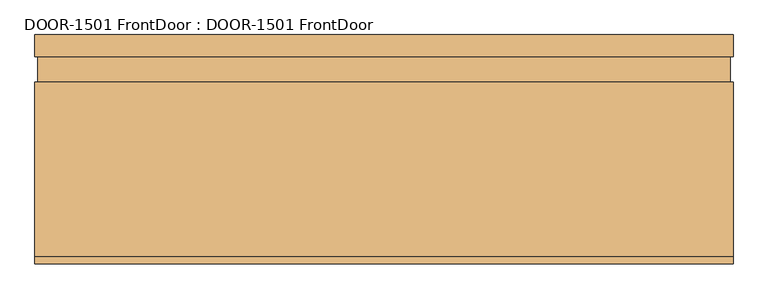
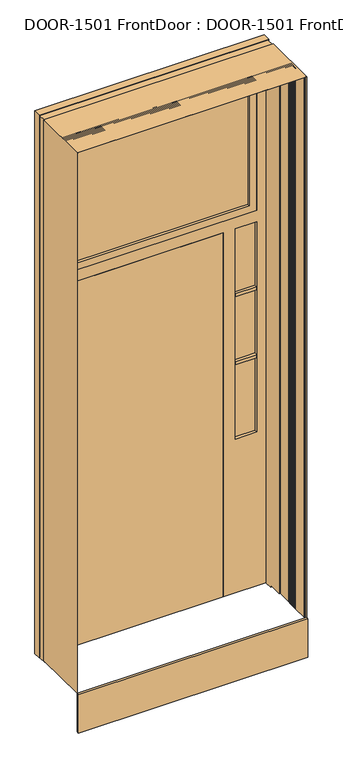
"""IFC4 building model written with IfcOpenShell, lengths in millimetres: door geometry, DOOR-1501 FrontDoor : DOOR-1501 FrontDoor."""

from ifc_helpers import new_model, si_unit, frame, origin, origin_with_axes, place, context, project, spatial, polyline, outline, extrude, faceted_brep, source, transform, mapped, element, save


def door_1501_frontdoor_door_1501_frontdoor_4eb3a074(model_context):
    return source(origin(), model_context, "Body", "SolidModel", [
        faceted_brep([(604.8122157, 152.4, 0.0), (595.3050309, 152.4, 0.0), (595.3050309, 196.85, 0.0), (604.8122157, 196.85, 0.0), (604.8122157, 196.85, 3043.2122157), (604.8122157, 152.4, 3043.2122157), (604.8122157, 152.4, 11.7243329), (595.3050309, 196.85, 3033.7050309), (-595.3050309, 196.85, 3033.7050309), (-595.3050309, 196.85, 0.0), (-604.8122157, 196.85, 0.0), (-604.8122157, 196.85, 3043.2122157), (595.3050309, 152.4, 11.7243329), (595.3050309, 74.3789963, 11.7243329), (595.3050309, 74.3789963, 3033.7050309), (-604.8122157, 152.4, 11.7243329), (-604.8122157, 152.4, 0.0), (-595.3050309, 152.4, 0.0), (-595.3050309, 152.4, 11.7243329), (609.6, -152.4, 3048.0), (609.6, -152.4, 11.7243329), (609.6, 152.4, 11.7243329), (609.6, 152.4, 3048.0), (604.8122157, -147.6122157, 3043.2122157), (604.8122157, -147.6122157, 11.7243329), (604.8122157, -144.7429306, 11.7243329), (603.5458918, -144.7429306, 11.7243329), (603.5458918, -141.1471506, 11.7243329), (600.7620621, -141.1471506, 11.7243329), (600.7620621, -69.3051017, 11.7243329), (605.2521902, -64.8149736, 11.7243329), (600.7620621, -60.3248455, 11.7243329), (605.2521902, -55.8347175, 11.7243329), (600.7620621, -51.3445894, 11.7243329), (605.2521902, -46.8544614, 11.7243329), (600.7620621, -42.3643333, 11.7243329), (605.2521902, -37.8742052, 11.7243329), (600.7620621, -33.3840772, 11.7243329), (605.2521902, -28.8939491, 11.7243329), (600.7620621, -24.403821, 11.7243329), (605.2521902, -19.913693, 11.7243329), (600.7620621, -15.4235649, 11.7243329), (605.2521902, -10.9334369, 11.7243329), (600.7620621, -6.4433088, 11.7243329), (605.2521902, -1.9531807, 11.7243329), (600.7620621, 2.5369473, 11.7243329), (600.7620621, 74.3789963, 11.7243329), (-595.3050309, 74.3789963, 11.7243329), (-600.7620621, 74.3789963, 11.7243329), (-600.7620621, 2.5369473, 11.7243329), (-605.2521902, -1.9531807, 11.7243329), (-600.7620621, -6.4433088, 11.7243329), (-605.2521902, -10.9334369, 11.7243329), (-600.7620621, -15.4235649, 11.7243329), (-605.2521902, -19.913693, 11.7243329), (-600.7620621, -24.403821, 11.7243329), (-605.2521902, -28.8939491, 11.7243329), (-600.7620621, -33.3840772, 11.7243329), (-605.2521902, -37.8742052, 11.7243329), (-600.7620621, -42.3643333, 11.7243329), (-605.2521902, -46.8544614, 11.7243329), (-600.7620621, -51.3445894, 11.7243329), (-605.2521902, -55.8347175, 11.7243329), (-600.7620621, -60.3248455, 11.7243329), (-605.2521902, -64.8149736, 11.7243329), (-600.7620621, -69.3051017, 11.7243329), (-600.7620621, -141.1471506, 11.7243329), (-603.5458918, -141.1471506, 11.7243329), (-603.5458918, -144.7429306, 11.7243329), (-604.8122157, -144.7429306, 11.7243329), (-604.8122157, -147.6122157, 11.7243329), (-609.6, -152.4, 11.7243329), (-609.6, 152.4, 11.7243329), (604.8122157, -144.7429306, 3043.2122157), (-604.8122157, 152.4, 3043.2122157), (-609.6, 152.4, 3048.0), (-609.6, -152.4, 3048.0), (-595.3050309, 74.3789963, 3033.7050309), (600.7620621, 74.3789963, 3039.1620621), (-600.7620621, 74.3789963, 3039.1620621), (-600.7620621, 2.5369473, 3039.1620621), (600.7620621, 2.5369473, 3039.1620621), (605.2521902, -1.9531807, 3043.6521902), (600.7620621, -6.4433088, 3039.1620621), (605.2521902, -10.9334369, 3043.6521902), (600.7620621, -15.4235649, 3039.1620621), (605.2521902, -19.913693, 3043.6521902), (600.7620621, -24.403821, 3039.1620621), (605.2521902, -28.8939491, 3043.6521902), (600.7620621, -33.3840772, 3039.1620621), (605.2521902, -37.8742052, 3043.6521902), (600.7620621, -42.3643333, 3039.1620621), (605.2521902, -46.8544614, 3043.6521902), (600.7620621, -51.3445894, 3039.1620621), (605.2521902, -55.8347175, 3043.6521902), (600.7620621, -60.3248455, 3039.1620621), (605.2521902, -64.8149736, 3043.6521902), (600.7620621, -69.3051017, 3039.1620621), (600.7620621, -141.1471506, 3039.1620621), (603.5458918, -141.1471506, 3041.9458918), (-603.5458918, -141.1471506, 3041.9458918), (-600.7620621, -141.1471506, 3039.1620621), (-600.7620621, -69.3051017, 3039.1620621), (-603.5458918, -144.7429306, 3041.9458918), (603.5458918, -144.7429306, 3041.9458918), (-604.8122157, -144.7429306, 3043.2122157), (-604.8122157, -147.6122157, 3043.2122157), (-605.2521902, -1.9531807, 3043.6521902), (-600.7620621, -6.4433088, 3039.1620621), (-605.2521902, -10.9334369, 3043.6521902), (-600.7620621, -15.4235649, 3039.1620621), (-605.2521902, -19.913693, 3043.6521902), (-600.7620621, -24.403821, 3039.1620621), (-605.2521902, -28.8939491, 3043.6521902), (-600.7620621, -33.3840772, 3039.1620621), (-605.2521902, -37.8742052, 3043.6521902), (-600.7620621, -42.3643333, 3039.1620621), (-605.2521902, -46.8544614, 3043.6521902), (-600.7620621, -51.3445894, 3039.1620621), (-605.2521902, -55.8347175, 3043.6521902), (-600.7620621, -60.3248455, 3039.1620621), (-605.2521902, -64.8149736, 3043.6521902)], [[[0, 1, 2, 3]], [[3, 4, 5, 6, 0]], [[2, 7, 8, 9, 10, 11, 4, 3]], [[2, 1, 12, 13, 14, 7]], [[12, 1, 0, 6]], [[15, 16, 17, 18]], [[19, 20, 21, 22]], [[23, 24, 20, 19]], [[6, 21, 20, 24, 25, 26, 27, 28, 29, 30, 31, 32, 33, 34, 35, 36, 37, 38, 39, 40, 41, 42, 43, 44, 45, 46, 13, 12]], [[18, 47, 48, 49, 50, 51, 52, 53, 54, 55, 56, 57, 58, 59, 60, 61, 62, 63, 64, 65, 66, 67, 68, 69, 70, 71, 72, 15]], [[73, 25, 24, 23]], [[22, 21, 6, 5, 74, 15, 72, 75]], [[75, 72, 71, 76]], [[10, 16, 15, 74, 11]], [[9, 17, 16, 10]], [[8, 77, 47, 18, 17, 9]], [[14, 13, 46, 78, 79, 48, 47, 77]], [[80, 49, 48, 79]], [[78, 46, 45, 81]], [[81, 45, 44, 82]], [[82, 44, 43, 83]], [[83, 43, 42, 84]], [[84, 42, 41, 85]], [[85, 41, 40, 86]], [[86, 40, 39, 87]], [[87, 39, 38, 88]], [[88, 38, 37, 89]], [[89, 37, 36, 90]], [[90, 36, 35, 91]], [[91, 35, 34, 92]], [[92, 34, 33, 93]], [[93, 33, 32, 94]], [[94, 32, 31, 95]], [[95, 31, 30, 96]], [[96, 30, 29, 97]], [[97, 29, 28, 98]], [[98, 28, 27, 99, 100, 67, 66, 101]], [[101, 66, 65, 102]], [[103, 68, 67, 100]], [[99, 27, 26, 104]], [[104, 26, 25, 73, 105, 69, 68, 103]], [[106, 70, 69, 105]], [[76, 71, 70, 106]], [[107, 50, 49, 80]], [[108, 51, 50, 107]], [[109, 52, 51, 108]], [[110, 53, 52, 109]], [[111, 54, 53, 110]], [[112, 55, 54, 111]], [[113, 56, 55, 112]], [[114, 57, 56, 113]], [[115, 58, 57, 114]], [[116, 59, 58, 115]], [[117, 60, 59, 116]], [[118, 61, 60, 117]], [[119, 62, 61, 118]], [[120, 63, 62, 119]], [[121, 64, 63, 120]], [[102, 65, 64, 121]], [[19, 76, 106, 23]], [[22, 75, 76, 19]], [[5, 4, 11, 74]], [[7, 14, 77, 8]], [[78, 81, 80, 79]], [[82, 107, 80, 81]], [[83, 108, 107, 82]], [[84, 109, 108, 83]], [[85, 110, 109, 84]], [[86, 111, 110, 85]], [[87, 112, 111, 86]], [[88, 113, 112, 87]], [[89, 114, 113, 88]], [[90, 115, 114, 89]], [[91, 116, 115, 90]], [[92, 117, 116, 91]], [[93, 118, 117, 92]], [[94, 119, 118, 93]], [[95, 120, 119, 94]], [[96, 121, 120, 95]], [[97, 102, 121, 96]], [[98, 101, 102, 97]], [[99, 104, 103, 100]], [[73, 23, 106, 105]]]),
        extrude(outline(polyline([(431.8, 212.725), (431.8, 215.9), (546.1, 215.9), (546.1, 212.725), (431.8, 212.725)])), frame((0.0, 0.0, 1679.14741), z_axis=(0.0, 0.0, 1.0), x_axis=(1.0, 0.0, 0.0)), (0.0, 0.0, 1.0), 365.55259),
        extrude(outline(polyline([(431.8, 212.725), (431.8, 215.9), (546.1, 215.9), (546.1, 212.725), (431.8, 212.725)])), frame((0.0, 0.0, 1298.14741), z_axis=(0.0, 0.0, 1.0), x_axis=(1.0, 0.0, 0.0)), (0.0, 0.0, 1.0), 364.63855),
        extrude(outline(polyline([(431.8, 212.725), (431.8, 215.9), (546.1, 215.9), (546.1, 212.725), (431.8, 212.725)])), frame((0.0, 0.0, 863.6), z_axis=(0.0, 0.0, 1.0), x_axis=(1.0, 0.0, 0.0)), (0.0, 0.0, 1.0), 418.1859599),
        extrude(outline(polyline([(-508.0, 212.725), (-508.0, 215.9), (508.0, 215.9), (508.0, 212.725), (-508.0, 212.725)])), frame((0.0, 0.0, 2146.3), z_axis=(0.0, 0.0, 1.0), x_axis=(1.0, 0.0, 0.0)), (0.0, 0.0, 1.0), 800.1),
        extrude(outline(polyline([(-546.1, 196.85), (-546.1, 234.95), (368.3, 234.95), (368.3, 196.85), (-546.1, 196.85)])), origin_with_axes(), (0.0, 0.0, 1.0), 2044.7),
        extrude(outline(polyline([(2984.5, -546.1), (2108.2, -546.1), (2108.2, 546.1), (2984.5, 546.1), (2984.5, -546.1)]), holes=[polyline([(2946.4, 508.0), (2146.3, 508.0), (2146.3, -508.0), (2946.4, -508.0), (2946.4, 508.0)])]), frame((0.0, 196.85, 0.0), z_axis=(0.0, 1.0, 0.0), x_axis=(0.0, 0.0, 1.0)), (0.0, 0.0, 1.0), 38.1),
        extrude(outline(polyline([(431.8, 196.85), (431.8, 234.95), (546.1, 234.95), (546.1, 196.85), (431.8, 196.85)])), frame((0.0, 0.0, 1662.7859599), z_axis=(0.0, 0.0, 1.0), x_axis=(1.0, 0.0, 0.0)), (0.0, 0.0, 1.0), 16.36145),
        extrude(outline(polyline([(431.8, 196.85), (431.8, 234.95), (546.1, 234.95), (546.1, 196.85), (431.8, 196.85)])), frame((0.0, 0.0, 1281.7859599), z_axis=(0.0, 0.0, 1.0), x_axis=(1.0, 0.0, 0.0)), (0.0, 0.0, 1.0), 16.36145),
        extrude(outline(polyline([(3048.0, -609.6), (0.0, -609.6), (0.0, -546.1), (2044.7, -546.1), (2044.7, 368.3), (0.0, 368.3), (0.0, 609.6), (3048.0, 609.6), (3048.0, -609.6)]), holes=[polyline([(2044.7, 546.1), (863.6, 546.1), (863.6, 431.8), (2044.7, 431.8), (2044.7, 546.1)]), polyline([(2984.5, -546.1), (2984.5, 546.1), (2108.2, 546.1), (2108.2, -546.1), (2984.5, -546.1)])]), frame((0.0, 196.85, 0.0), z_axis=(0.0, 1.0, 0.0), x_axis=(0.0, 0.0, 1.0)), (0.0, 0.0, 1.0), 38.1),
        extrude(outline(polyline([(-609.6, -165.1), (-609.6, -152.4), (609.6, -152.4), (609.6, -165.1), (-609.6, -165.1)])), frame((0.0, 0.0, -203.2), z_axis=(0.0, 0.0, 1.0), x_axis=(1.0, 0.0, 0.0)), (0.0, 0.0, 1.0), 214.9243329),
    ])


if __name__ == "__main__":
    model = new_model("IFC4")
    model_context = context("Model", 3, world=origin())
    ifc_project = project(units=[si_unit("LENGTHUNIT", "METRE", prefix="MILLI")], contexts=[model_context])
    site = spatial("IfcSite", under=ifc_project)
    building = spatial("IfcBuilding", under=site)
    placement = place(None, origin())
    door_1501_frontdoor_door_1501_frontdoor_shape = door_1501_frontdoor_door_1501_frontdoor_4eb3a074(model_context)
    element("IfcDoor", 1, ObjectType="DOOR-1501 FrontDoor : DOOR-1501 FrontDoor", at=placement, inside=building, context=model_context, shape_type="MappedRepresentation", body=[
        mapped(door_1501_frontdoor_door_1501_frontdoor_shape, transform((0.0, 0.0, 0.0), x_axis=(1.0, 0.0, 0.0), y_axis=(0.0, 1.0, 0.0), z_axis=(0.0, 0.0, 1.0))),
    ])
    save(model, "model.ifc")
